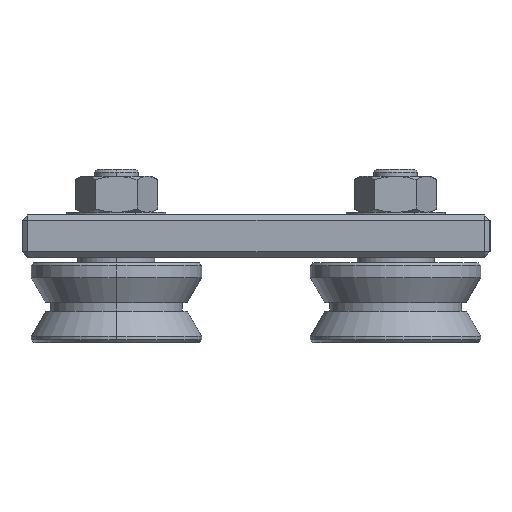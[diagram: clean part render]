
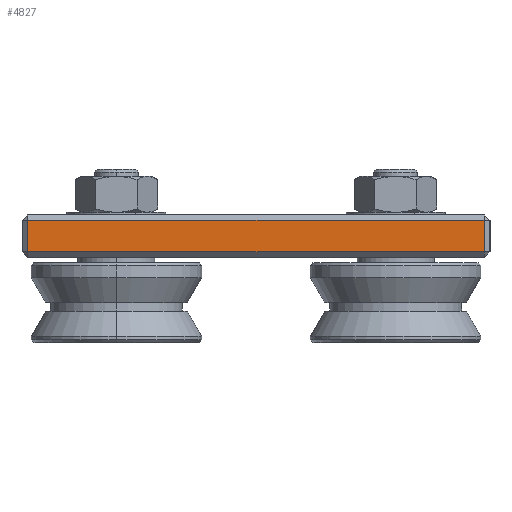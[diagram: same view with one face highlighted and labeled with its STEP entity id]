
A CAD part, left-side view. The second image highlights one B-rep face of the part: STEP entity #4827.
In plain terms, the highlighted planar face has unit normal (-1, 0, 0).
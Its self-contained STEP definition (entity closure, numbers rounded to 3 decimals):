
#323 = CARTESIAN_POINT ( 'NONE',  ( -62.5, -41.5, -6.7 ) ) ;
#581 = CARTESIAN_POINT ( 'NONE',  ( -62.5, 41.5, -6.7 ) ) ;
#733 = CARTESIAN_POINT ( 'NONE',  ( -62.5, 41.5, -1. ) ) ;
#734 = DIRECTION ( 'NONE',  ( 0., 0., -1. ) ) ;
#735 = VECTOR ( 'NONE', #734, 1000. ) ;
#736 = CARTESIAN_POINT ( 'NONE',  ( -62.5, 41.5, 0. ) ) ;
#737 = LINE ( 'NONE', #736, #735 ) ;
#810 = CARTESIAN_POINT ( 'NONE',  ( -62.5, -41.5, -1. ) ) ;
#856 = DIRECTION ( 'NONE',  ( 0., -1., 0. ) ) ;
#857 = VECTOR ( 'NONE', #856, 1000. ) ;
#858 = CARTESIAN_POINT ( 'NONE',  ( -62.5, -42.5, -6.7 ) ) ;
#859 = LINE ( 'NONE', #858, #857 ) ;
#870 = DIRECTION ( 'NONE',  ( 0., 0., 1. ) ) ;
#871 = VECTOR ( 'NONE', #870, 1000. ) ;
#872 = CARTESIAN_POINT ( 'NONE',  ( -62.5, -41.5, 0. ) ) ;
#873 = LINE ( 'NONE', #872, #871 ) ;
#973 = LINE ( 'NONE', #1039, #1038 ) ;
#974 = DIRECTION ( 'NONE',  ( 0., 1., 0. ) ) ;
#975 = DIRECTION ( 'NONE',  ( 1., 0., 0. ) ) ;
#976 = CARTESIAN_POINT ( 'NONE',  ( -62.5, 42.5, 0. ) ) ;
#977 = AXIS2_PLACEMENT_3D ( 'NONE', #976, #975, #974 ) ;
#978 = PLANE ( 'NONE',  #977 ) ;
#979 = FACE_OUTER_BOUND ( 'NONE', #4828, .T. ) ;
#1037 = DIRECTION ( 'NONE',  ( 0., 1., 0. ) ) ;
#1038 = VECTOR ( 'NONE', #1037, 1000. ) ;
#1039 = CARTESIAN_POINT ( 'NONE',  ( -62.5, 42.5, -1. ) ) ;
#4442 = VERTEX_POINT ( 'NONE', #323 ) ;
#4576 = VERTEX_POINT ( 'NONE', #581 ) ;
#4661 = EDGE_CURVE ( 'NONE', #4662, #4576, #737, .T. ) ;
#4662 = VERTEX_POINT ( 'NONE', #733 ) ;
#4731 = VERTEX_POINT ( 'NONE', #810 ) ;
#4733 = EDGE_CURVE ( 'NONE', #4442, #4731, #873, .T. ) ;
#4744 = EDGE_CURVE ( 'NONE', #4576, #4442, #859, .T. ) ;
#4827 = ADVANCED_FACE ( 'NONE', ( #979 ), #978, .F. ) ;
#4828 = EDGE_LOOP ( 'NONE', ( #4829, #4883, #4884, #4885 ) ) ;
#4829 = ORIENTED_EDGE ( 'NONE', *, *, #4830, .T. ) ;
#4830 = EDGE_CURVE ( 'NONE', #4731, #4662, #973, .T. ) ;
#4883 = ORIENTED_EDGE ( 'NONE', *, *, #4661, .T. ) ;
#4884 = ORIENTED_EDGE ( 'NONE', *, *, #4744, .T. ) ;
#4885 = ORIENTED_EDGE ( 'NONE', *, *, #4733, .T. ) ;
